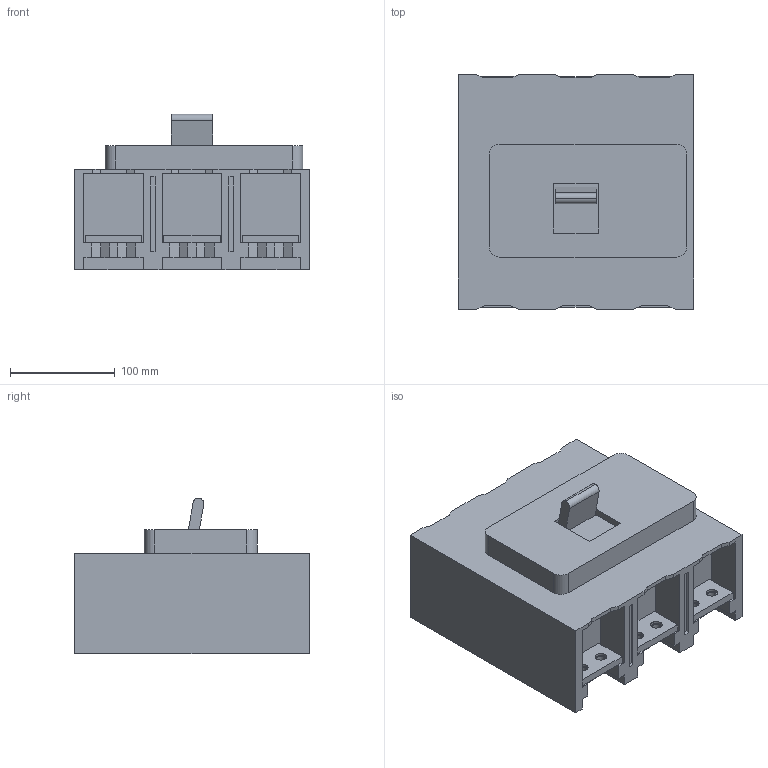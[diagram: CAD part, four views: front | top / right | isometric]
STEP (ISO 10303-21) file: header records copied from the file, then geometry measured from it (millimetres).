
FILE_DESCRIPTION (( 'STEP AP214' ), '1' );
FILE_NAME ('10 (3).STEP', '2023-08-08T08:25:00', ( '' ), ( '' ), 'SwSTEP 2.0', 'SolidWorks 2018', '' );
FILE_SCHEMA (( 'AUTOMOTIVE_DESIGN' ));
Length unit declared in the file: millimetre
Products named in the file (1): 10 (3)
Bounding box: 225 x 224 x 148.66 mm (x, y, z)
Volume: 4379932.1 mm3; surface area: 269472.3 mm2
Topology: 2 solids, 2 shells, 269 faces, 735 edges, 486 vertices
Faces by surface type: plane 219, cylinder 50
Entity records: 9340 total; most frequent: CARTESIAN_POINT 1491, ORIENTED_EDGE 1470, DIRECTION 1375, EDGE_CURVE 735, LINE 635, VECTOR 635, VERTEX_POINT 486, AXIS2_PLACEMENT_3D 370
